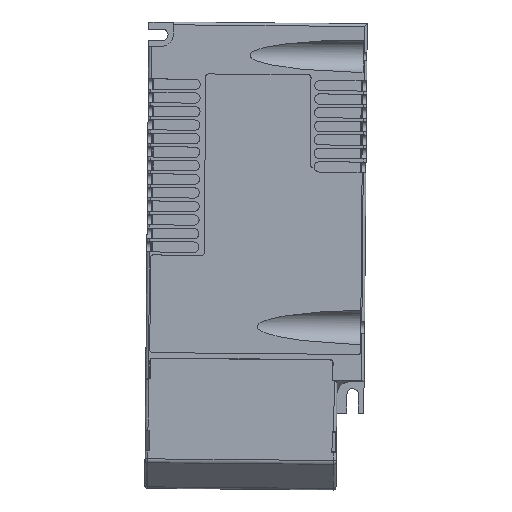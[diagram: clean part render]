
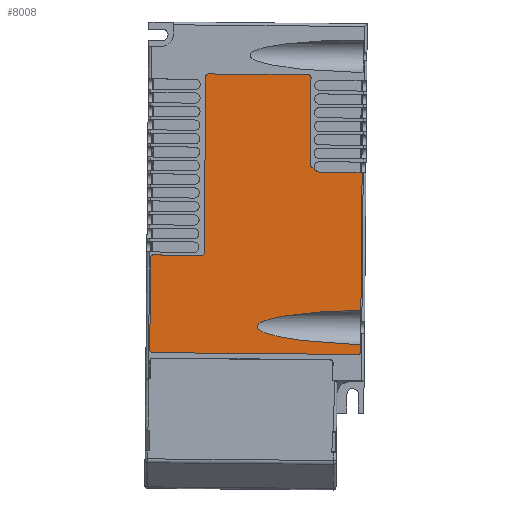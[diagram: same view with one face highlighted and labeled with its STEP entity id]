
A CAD part, top view. The second image highlights one B-rep face of the part: STEP entity #8008.
In plain terms, the highlighted planar face has unit normal (0, 0, 1) as drawn and (1, 0, 0) by its records, which use the part's own axes.
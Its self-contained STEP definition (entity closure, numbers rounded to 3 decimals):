
#2920=DIRECTION('',(0.,0.,1.));
#2921=VECTOR('',#2920,15.85);
#2922=CARTESIAN_POINT('',(28.4,-17.,23.));
#2923=LINE('',#2922,#2921);
#2936=DIRECTION('',(0.,-1.,0.));
#2937=VECTOR('',#2936,2.529);
#2938=CARTESIAN_POINT('',(28.4,49.12,38.85));
#2939=LINE('',#2938,#2937);
#2940=CARTESIAN_POINT('',(28.4,49.12,37.85));
#2941=DIRECTION('',(1.,0.,0.));
#2942=DIRECTION('',(0.,1.,0.));
#2943=AXIS2_PLACEMENT_3D('',#2940,#2941,#2942);
#2945=DIRECTION('',(0.,0.,1.));
#2946=VECTOR('',#2945,75.7);
#2947=CARTESIAN_POINT('',(28.4,50.12,-37.85));
#2948=LINE('',#2947,#2946);
#2949=CARTESIAN_POINT('',(28.4,49.12,-37.85));
#2950=DIRECTION('',(1.,0.,0.));
#2951=DIRECTION('',(0.,0.,-1.));
#2952=AXIS2_PLACEMENT_3D('',#2949,#2950,#2951);
#2954=DIRECTION('',(0.,1.,0.));
#2955=VECTOR('',#2954,34.02);
#2956=CARTESIAN_POINT('',(28.4,15.1,-38.85));
#2957=LINE('',#2956,#2955);
#2958=CARTESIAN_POINT('',(28.4,15.1,-37.85));
#2959=DIRECTION('',(1.,0.,0.));
#2960=DIRECTION('',(0.,-1.,0.));
#2961=AXIS2_PLACEMENT_3D('',#2958,#2959,#2960);
#2963=DIRECTION('',(0.,0.,-1.));
#2964=VECTOR('',#2963,17.74);
#2965=CARTESIAN_POINT('',(28.4,14.1,-20.11));
#2966=LINE('',#2965,#2964);
#2967=CARTESIAN_POINT('',(28.4,13.1,-20.11));
#2968=DIRECTION('',(-1.,0.,0.));
#2969=DIRECTION('',(0.,0.,1.));
#2970=AXIS2_PLACEMENT_3D('',#2967,#2968,#2969);
#2972=DIRECTION('',(0.,1.,0.));
#2973=VECTOR('',#2972,64.9);
#2974=CARTESIAN_POINT('',(28.4,-51.8,-19.11));
#2975=LINE('',#2974,#2973);
#2976=CARTESIAN_POINT('',(28.4,-51.8,-18.11));
#2977=DIRECTION('',(1.,0.,0.));
#2978=DIRECTION('',(0.,-1.,0.));
#2979=AXIS2_PLACEMENT_3D('',#2976,#2977,#2978);
#2981=DIRECTION('',(0.,0.,-1.));
#2982=VECTOR('',#2981,36.81);
#2983=CARTESIAN_POINT('',(28.4,-52.8,18.7));
#2984=LINE('',#2983,#2982);
#2985=CARTESIAN_POINT('',(28.4,-51.8,18.7));
#2986=DIRECTION('',(1.,0.,0.));
#2987=DIRECTION('',(0.,0.,1.));
#2988=AXIS2_PLACEMENT_3D('',#2985,#2986,#2987);
#2990=DIRECTION('',(0.,-1.,0.));
#2991=VECTOR('',#2990,32.15);
#2992=CARTESIAN_POINT('',(28.4,-19.65,19.7));
#2993=LINE('',#2992,#2991);
#2994=CARTESIAN_POINT('',(28.4,-19.65,20.7));
#2995=DIRECTION('',(-1.,0.,0.));
#2996=DIRECTION('',(0.,1.,0.));
#2997=AXIS2_PLACEMENT_3D('',#2994,#2995,#2996);
#2999=DIRECTION('',(0.,0.,-1.));
#3000=VECTOR('',#2999,0.417);
#3001=CARTESIAN_POINT('',(28.4,-18.65,21.117));
#3002=LINE('',#3001,#3000);
#3003=DIRECTION('',(0.,-1.,0.));
#3004=VECTOR('',#3003,50.809);
#3005=CARTESIAN_POINT('',(28.4,33.809,38.85));
#3006=LINE('',#3005,#3004);
#3059=CARTESIAN_POINT('',(28.4,-18.9,23.));
#3060=DIRECTION('',(-1.,0.,0.));
#3061=DIRECTION('',(0.,1.,0.));
#3062=AXIS2_PLACEMENT_3D('',#3059,#3060,#3061);
#3358=CARTESIAN_POINT('',(28.4,46.591,38.85));
#3384=CARTESIAN_POINT('',(28.4,33.809,38.85));
#3386=CARTESIAN_POINT('',(28.4,46.591,38.85));
#3387=CARTESIAN_POINT('',(28.4,46.558,37.56));
#3388=CARTESIAN_POINT('',(28.4,46.491,35.519));
#3389=CARTESIAN_POINT('',(28.4,46.391,33.08));
#3390=CARTESIAN_POINT('',(28.4,46.291,31.027));
#3391=CARTESIAN_POINT('',(28.4,46.158,28.628));
#3392=CARTESIAN_POINT('',(28.4,45.992,26.091));
#3393=CARTESIAN_POINT('',(28.4,45.792,23.504));
#3394=CARTESIAN_POINT('',(28.4,45.592,21.246));
#3395=CARTESIAN_POINT('',(28.4,45.326,18.571));
#3396=CARTESIAN_POINT('',(28.4,44.993,15.726));
#3397=CARTESIAN_POINT('',(28.4,44.594,12.875));
#3398=CARTESIAN_POINT('',(28.4,44.194,10.461));
#3399=CARTESIAN_POINT('',(28.4,43.795,8.404));
#3400=CARTESIAN_POINT('',(28.4,43.262,6.066));
#3401=CARTESIAN_POINT('',(28.4,42.597,3.807));
#3402=CARTESIAN_POINT('',(28.4,41.798,1.965));
#3403=CARTESIAN_POINT('',(28.4,40.999,0.895));
#3404=CARTESIAN_POINT('',(28.4,40.2,0.544));
#3405=CARTESIAN_POINT('',(28.4,39.401,0.895));
#3406=CARTESIAN_POINT('',(28.4,38.602,1.965));
#3407=CARTESIAN_POINT('',(28.4,37.803,3.807));
#3408=CARTESIAN_POINT('',(28.4,37.138,6.066));
#3409=CARTESIAN_POINT('',(28.4,36.605,8.404));
#3410=CARTESIAN_POINT('',(28.4,36.206,10.461));
#3411=CARTESIAN_POINT('',(28.4,35.806,12.875));
#3412=CARTESIAN_POINT('',(28.4,35.407,15.726));
#3413=CARTESIAN_POINT('',(28.4,35.074,18.571));
#3414=CARTESIAN_POINT('',(28.4,34.808,21.246));
#3415=CARTESIAN_POINT('',(28.4,34.608,23.504));
#3416=CARTESIAN_POINT('',(28.4,34.408,26.091));
#3417=CARTESIAN_POINT('',(28.4,34.242,28.628));
#3418=CARTESIAN_POINT('',(28.4,34.109,31.027));
#3419=CARTESIAN_POINT('',(28.4,34.009,33.08));
#3420=CARTESIAN_POINT('',(28.4,33.909,35.519));
#3421=CARTESIAN_POINT('',(28.4,33.842,37.56));
#3422=CARTESIAN_POINT('',(28.4,33.809,38.85));
#4011=CARTESIAN_POINT('',(28.4,49.12,-38.85));
#4012=CARTESIAN_POINT('',(28.4,50.12,-37.85));
#4013=VERTEX_POINT('',#4011);
#4014=VERTEX_POINT('',#4012);
#4015=CARTESIAN_POINT('',(28.4,50.12,37.85));
#4016=VERTEX_POINT('',#4015);
#4017=CARTESIAN_POINT('',(28.4,49.12,38.85));
#4018=VERTEX_POINT('',#4017);
#4019=CARTESIAN_POINT('',(28.4,-18.65,20.7));
#4020=CARTESIAN_POINT('',(28.4,-19.65,19.7));
#4021=VERTEX_POINT('',#4019);
#4022=VERTEX_POINT('',#4020);
#4023=CARTESIAN_POINT('',(28.4,-51.8,19.7));
#4024=VERTEX_POINT('',#4023);
#4025=CARTESIAN_POINT('',(28.4,-52.8,18.7));
#4026=VERTEX_POINT('',#4025);
#4027=CARTESIAN_POINT('',(28.4,-52.8,-18.11));
#4028=VERTEX_POINT('',#4027);
#4029=CARTESIAN_POINT('',(28.4,-51.8,-19.11));
#4030=VERTEX_POINT('',#4029);
#4031=CARTESIAN_POINT('',(28.4,13.1,-19.11));
#4032=VERTEX_POINT('',#4031);
#4033=CARTESIAN_POINT('',(28.4,14.1,-20.11));
#4034=VERTEX_POINT('',#4033);
#4035=CARTESIAN_POINT('',(28.4,14.1,-37.85));
#4036=VERTEX_POINT('',#4035);
#4037=CARTESIAN_POINT('',(28.4,15.1,-38.85));
#4038=VERTEX_POINT('',#4037);
#4575=VERTEX_POINT('',#3358);
#4576=VERTEX_POINT('',#3384);
#4577=CARTESIAN_POINT('',(28.4,-17.,38.85));
#4578=VERTEX_POINT('',#4577);
#4825=CARTESIAN_POINT('',(28.4,-17.,23.));
#4826=VERTEX_POINT('',#4825);
#4827=CARTESIAN_POINT('',(28.4,-18.65,21.117));
#4828=VERTEX_POINT('',#4827);
#7966=CARTESIAN_POINT('',(28.4,0.,0.));
#7967=DIRECTION('',(1.,0.,0.));
#7968=DIRECTION('',(0.,0.,1.));
#7969=AXIS2_PLACEMENT_3D('',#7966,#7967,#7968);
#7970=PLANE('',#7969);
#7971=ORIENTED_EDGE('',*,*,#7764,.F.);
#7973=ORIENTED_EDGE('',*,*,#7972,.F.);
#7975=ORIENTED_EDGE('',*,*,#7974,.F.);
#7977=ORIENTED_EDGE('',*,*,#7976,.F.);
#7979=ORIENTED_EDGE('',*,*,#7978,.F.);
#7981=ORIENTED_EDGE('',*,*,#7980,.F.);
#7983=ORIENTED_EDGE('',*,*,#7982,.F.);
#7985=ORIENTED_EDGE('',*,*,#7984,.F.);
#7987=ORIENTED_EDGE('',*,*,#7986,.F.);
#7989=ORIENTED_EDGE('',*,*,#7988,.F.);
#7991=ORIENTED_EDGE('',*,*,#7990,.F.);
#7993=ORIENTED_EDGE('',*,*,#7992,.F.);
#7995=ORIENTED_EDGE('',*,*,#7994,.F.);
#7997=ORIENTED_EDGE('',*,*,#7996,.F.);
#7999=ORIENTED_EDGE('',*,*,#7998,.F.);
#8001=ORIENTED_EDGE('',*,*,#8000,.F.);
#8002=ORIENTED_EDGE('',*,*,#7954,.T.);
#8003=ORIENTED_EDGE('',*,*,#7768,.F.);
#8005=ORIENTED_EDGE('',*,*,#8004,.F.);
#8006=EDGE_LOOP('',(#7971,#7973,#7975,#7977,#7979,#7981,#7983,#7985,#7987,#7989,
#7991,#7993,#7995,#7997,#7999,#8001,#8002,#8003,#8005));
#8007=FACE_OUTER_BOUND('',#8006,.F.);
#2944=CIRCLE('',#2943,1.);
#2953=CIRCLE('',#2952,1.);
#2962=CIRCLE('',#2961,1.);
#2971=CIRCLE('',#2970,1.);
#2980=CIRCLE('',#2979,1.);
#2989=CIRCLE('',#2988,1.);
#2998=CIRCLE('',#2997,1.);
#3063=CIRCLE('',#3062,1.9);
#3423=B_SPLINE_CURVE_WITH_KNOTS('',3,(#3386,#3387,#3388,#3389,#3390,#3391,#3392,
#3393,#3394,#3395,#3396,#3397,#3398,#3399,#3400,#3401,#3402,#3403,#3404,#3405,
#3406,#3407,#3408,#3409,#3410,#3411,#3412,#3413,#3414,#3415,#3416,#3417,#3418,
#3419,#3420,#3421,#3422),.UNSPECIFIED.,.F.,.F.,(4,1,1,1,1,1,1,1,1,1,1,1,1,1,1,1,
1,1,1,1,1,1,1,1,1,1,1,1,1,1,1,1,1,1,4),(0.,0.008,0.016,0.023,
0.031,0.047,0.063,0.078,0.094,0.125,0.156,0.188,
0.219,0.25,0.313,0.375,0.438,0.5,0.563,0.625,0.688,
0.75,0.781,0.813,0.844,0.875,0.906,0.922,0.938,
0.953,0.969,0.977,0.984,0.992,1.),.UNSPECIFIED.);
#7764=EDGE_CURVE('',#4018,#4575,#2939,.T.);
#7768=EDGE_CURVE('',#4576,#4578,#3006,.T.);
#7954=EDGE_CURVE('',#4826,#4578,#2923,.T.);
#7972=EDGE_CURVE('',#4016,#4018,#2944,.T.);
#7974=EDGE_CURVE('',#4014,#4016,#2948,.T.);
#7976=EDGE_CURVE('',#4013,#4014,#2953,.T.);
#7978=EDGE_CURVE('',#4038,#4013,#2957,.T.);
#7980=EDGE_CURVE('',#4036,#4038,#2962,.T.);
#7982=EDGE_CURVE('',#4034,#4036,#2966,.T.);
#7984=EDGE_CURVE('',#4032,#4034,#2971,.T.);
#7986=EDGE_CURVE('',#4030,#4032,#2975,.T.);
#7988=EDGE_CURVE('',#4028,#4030,#2980,.T.);
#7990=EDGE_CURVE('',#4026,#4028,#2984,.T.);
#7992=EDGE_CURVE('',#4024,#4026,#2989,.T.);
#7994=EDGE_CURVE('',#4022,#4024,#2993,.T.);
#7996=EDGE_CURVE('',#4021,#4022,#2998,.T.);
#7998=EDGE_CURVE('',#4828,#4021,#3002,.T.);
#8000=EDGE_CURVE('',#4826,#4828,#3063,.T.);
#8004=EDGE_CURVE('',#4575,#4576,#3423,.T.);
#8008=ADVANCED_FACE('',(#8007),#7970,.T.);
